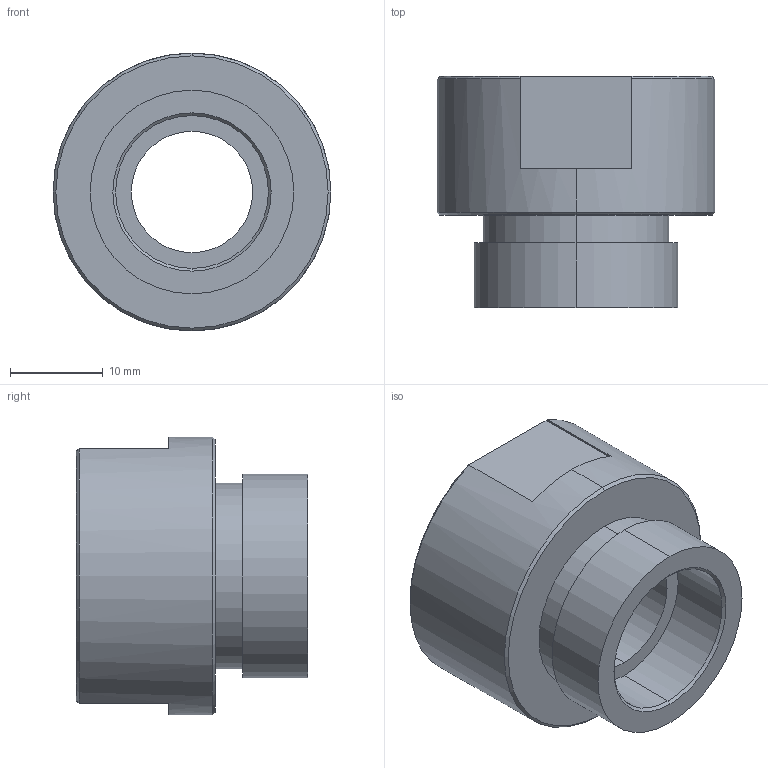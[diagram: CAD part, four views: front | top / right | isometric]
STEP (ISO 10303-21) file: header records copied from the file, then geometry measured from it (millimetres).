
FILE_DESCRIPTION (( 'STEP AP203' ), '1' );
FILE_NAME ('125MO-13.1.STEP', '2022-04-13T07:33:38', ( '' ), ( '' ), 'SwSTEP 2.0', 'SolidWorks 2015', '' );
FILE_SCHEMA (( 'CONFIG_CONTROL_DESIGN' ));
Length unit declared in the file: millimetre
Products named in the file (2): 125MO-13.1
Bounding box: 30 x 25 x 30 mm (x, y, z)
Volume: 10012.2 mm3; surface area: 4430.5 mm2
Topology: 1 solids, 1 shells, 29 faces, 68 edges, 44 vertices
Faces by surface type: plane 13, cylinder 10, cone 6
Entity records: 1007 total; most frequent: CARTESIAN_POINT 167, DIRECTION 152, ORIENTED_EDGE 136, EDGE_CURVE 68, AXIS2_PLACEMENT_3D 61, VERTEX_POINT 44, EDGE_LOOP 34, LINE 30
